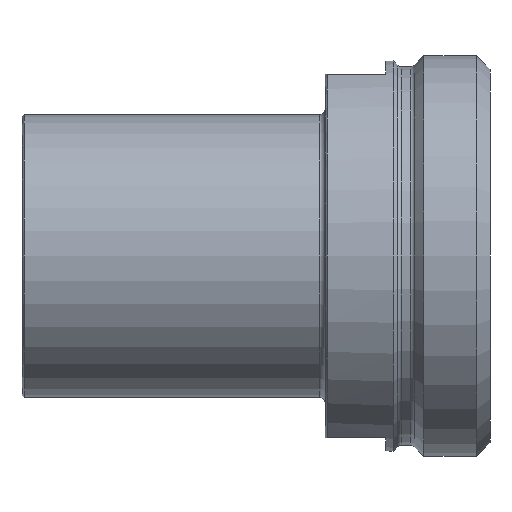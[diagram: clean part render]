
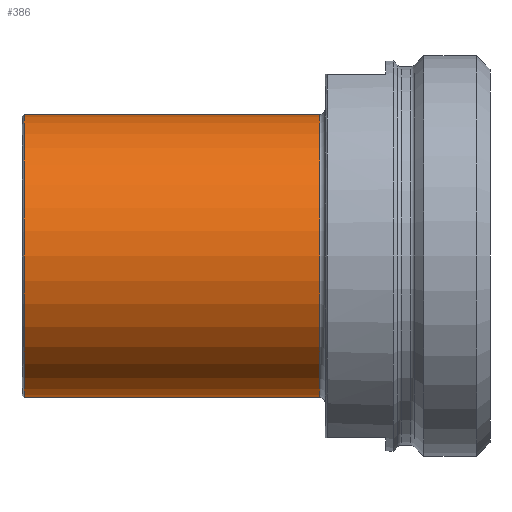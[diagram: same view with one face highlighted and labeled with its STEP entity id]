
A CAD part, front view. The second image highlights one B-rep face of the part: STEP entity #386.
In plain terms, the highlighted cylindrical face has radius 21 mm (diameter 42 mm), a full revolution.
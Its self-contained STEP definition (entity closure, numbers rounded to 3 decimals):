
#31=CYLINDRICAL_SURFACE('',#451,21.);
#50=FACE_OUTER_BOUND('',#73,.T.);
#73=EDGE_LOOP('',(#319,#320,#321,#322,#323,#324));
#99=LINE('',#696,#118);
#118=VECTOR('',#558,21.);
#143=CIRCLE('',#447,21.);
#146=CIRCLE('',#450,21.);
#147=CIRCLE('',#452,21.);
#148=CIRCLE('',#453,21.);
#182=VERTEX_POINT('',#687);
#183=VERTEX_POINT('',#688);
#185=VERTEX_POINT('',#695);
#186=VERTEX_POINT('',#697);
#230=EDGE_CURVE('',#182,#183,#143,.T.);
#233=EDGE_CURVE('',#183,#182,#146,.T.);
#234=EDGE_CURVE('',#182,#185,#99,.T.);
#235=EDGE_CURVE('',#186,#185,#147,.T.);
#236=EDGE_CURVE('',#185,#186,#148,.T.);
#319=ORIENTED_EDGE('',*,*,#230,.F.);
#320=ORIENTED_EDGE('',*,*,#234,.T.);
#321=ORIENTED_EDGE('',*,*,#235,.F.);
#322=ORIENTED_EDGE('',*,*,#236,.F.);
#323=ORIENTED_EDGE('',*,*,#234,.F.);
#324=ORIENTED_EDGE('',*,*,#233,.F.);
#386=ADVANCED_FACE('',(#50),#31,.T.);
#447=AXIS2_PLACEMENT_3D('',#689,#548,#549);
#450=AXIS2_PLACEMENT_3D('',#693,#554,#555);
#451=AXIS2_PLACEMENT_3D('',#694,#556,#557);
#452=AXIS2_PLACEMENT_3D('',#698,#559,#560);
#453=AXIS2_PLACEMENT_3D('',#699,#561,#562);
#548=DIRECTION('center_axis',(1.,0.,0.));
#549=DIRECTION('ref_axis',(0.,-1.,0.));
#554=DIRECTION('center_axis',(1.,0.,0.));
#555=DIRECTION('ref_axis',(0.,-1.,0.));
#556=DIRECTION('center_axis',(1.,0.,0.));
#557=DIRECTION('ref_axis',(0.,1.,0.));
#558=DIRECTION('',(-1.,0.,0.));
#559=DIRECTION('center_axis',(-1.,0.,0.));
#560=DIRECTION('ref_axis',(0.,-1.,0.));
#561=DIRECTION('center_axis',(-1.,0.,0.));
#562=DIRECTION('ref_axis',(0.,-1.,0.));
#687=CARTESIAN_POINT('',(-25.3,-21.,0.));
#688=CARTESIAN_POINT('',(-25.3,0.,21.));
#689=CARTESIAN_POINT('Origin',(-25.3,0.,0.));
#693=CARTESIAN_POINT('Origin',(-25.3,0.,0.));
#694=CARTESIAN_POINT('Origin',(-47.,0.,0.));
#695=CARTESIAN_POINT('',(-69.2,-21.,0.));
#696=CARTESIAN_POINT('',(-47.,-21.,0.));
#697=CARTESIAN_POINT('',(-69.2,21.,0.));
#698=CARTESIAN_POINT('Origin',(-69.2,0.,0.));
#699=CARTESIAN_POINT('Origin',(-69.2,0.,0.));
